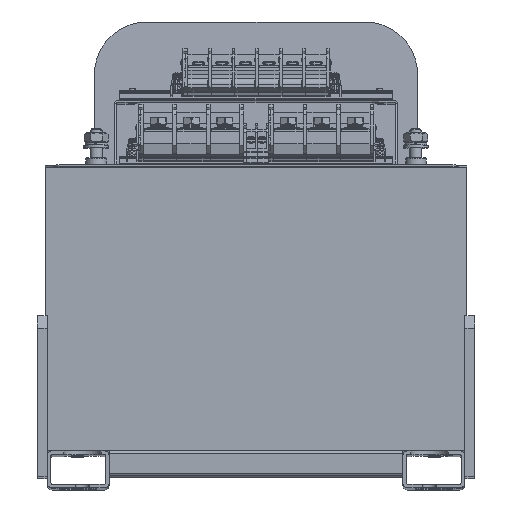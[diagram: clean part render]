
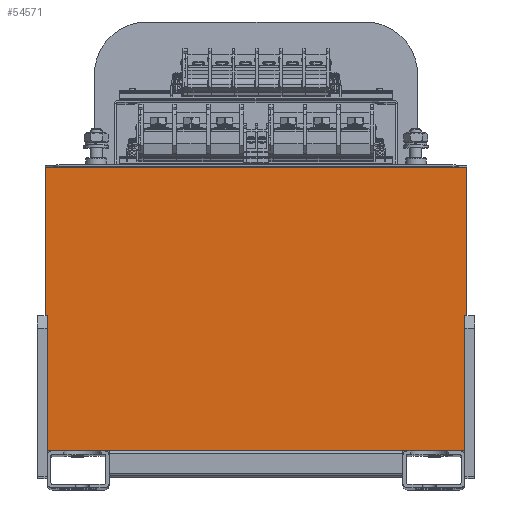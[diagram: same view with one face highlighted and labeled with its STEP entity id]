
A CAD part, top view. The second image highlights one B-rep face of the part: STEP entity #54571.
In plain terms, the highlighted planar face has unit normal (0, 0, 1).
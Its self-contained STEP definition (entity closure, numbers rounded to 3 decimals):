
#54378=CARTESIAN_POINT('',(-170.0,228.612,3.1));
#54379=VERTEX_POINT('',#54378);
#54386=CARTESIAN_POINT('',(170.0,228.612,3.1));
#54387=VERTEX_POINT('',#54386);
#54388=CARTESIAN_POINT('',(170.0,228.612,3.1));
#54389=DIRECTION('',(-1.0,0.0,0.0));
#54390=VECTOR('',#54389,340.0);
#54391=LINE('',#54388,#54390);
#54392=EDGE_CURVE('',#54387,#54379,#54391,.T.);
#54436=CARTESIAN_POINT('',(170.0,0.,3.1));
#54437=VERTEX_POINT('',#54436);
#54438=CARTESIAN_POINT('',(170.0,228.612,3.1));
#54439=DIRECTION('',(0.0,-1.0,0.0));
#54440=VECTOR('',#54439,228.612);
#54441=LINE('',#54438,#54440);
#54442=EDGE_CURVE('',#54387,#54437,#54441,.T.);
#54477=CARTESIAN_POINT('',(-170.0,0.,3.1));
#54478=VERTEX_POINT('',#54477);
#54485=CARTESIAN_POINT('',(-170.0,0.,3.1));
#54486=DIRECTION('',(0.0,1.0,0.0));
#54487=VECTOR('',#54486,228.612);
#54488=LINE('',#54485,#54487);
#54489=EDGE_CURVE('',#54478,#54379,#54488,.T.);
#54550=CARTESIAN_POINT('',(-170.0,0.,3.1));
#54551=DIRECTION('',(1.0,0.0,0.0));
#54552=VECTOR('',#54551,340.0);
#54553=LINE('',#54550,#54552);
#54554=EDGE_CURVE('',#54478,#54437,#54553,.T.);
#54560=CARTESIAN_POINT('',(0.0,230.114,3.1));
#54561=DIRECTION('',(0.0,0.0,1.0));
#54562=DIRECTION('',(0.0,-1.0,0.0));
#54563=AXIS2_PLACEMENT_3D('',#54560,#54561,#54562);
#54564=PLANE('',#54563);
#54565=ORIENTED_EDGE('',*,*,#54392,.T.);
#54566=ORIENTED_EDGE('',*,*,#54489,.F.);
#54567=ORIENTED_EDGE('',*,*,#54554,.T.);
#54568=ORIENTED_EDGE('',*,*,#54442,.F.);
#54569=EDGE_LOOP('',(#54565,#54566,#54567,#54568));
#54570=FACE_OUTER_BOUND('',#54569,.T.);
#54571=ADVANCED_FACE('',(#54570),#54564,.T.);
